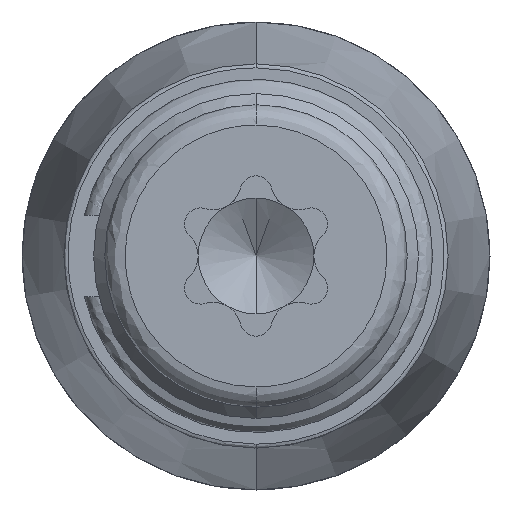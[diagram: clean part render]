
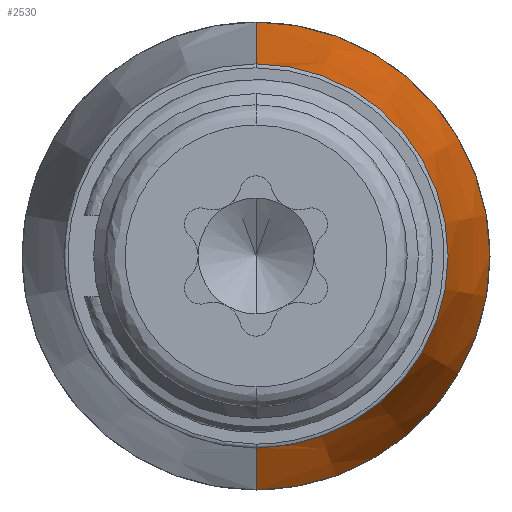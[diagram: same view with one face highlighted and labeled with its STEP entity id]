
A CAD part, front view. The second image highlights one B-rep face of the part: STEP entity #2530.
In plain terms, the highlighted conical face has half-angle 11 degrees and reference radius 5.763 mm.
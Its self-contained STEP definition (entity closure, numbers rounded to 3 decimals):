
#170 = CARTESIAN_POINT ( 'NONE',  ( 0., 12.681, -5.763 ) ) ;
#391 = ORIENTED_EDGE ( 'NONE', *, *, #571, .T. ) ;
#424 = CIRCLE ( 'NONE', #2859, 4.733 ) ;
#473 = CARTESIAN_POINT ( 'NONE',  ( 0., 12.681, 5.763 ) ) ;
#571 = EDGE_CURVE ( 'NONE', #1946, #2667, #424, .T. ) ;
#646 = CARTESIAN_POINT ( 'NONE',  ( 0., 12.681, 0. ) ) ;
#702 = CARTESIAN_POINT ( 'NONE',  ( 0., 12.681, 0. ) ) ;
#725 = DIRECTION ( 'NONE',  ( 0., -1., 0. ) ) ;
#850 = EDGE_CURVE ( 'NONE', #966, #1521, #1920, .T. ) ;
#966 = VERTEX_POINT ( 'NONE', #170 ) ;
#1036 = DIRECTION ( 'NONE',  ( 0., 0., 1. ) ) ;
#1149 = DIRECTION ( 'NONE',  ( 0., 1., 0. ) ) ;
#1203 = EDGE_LOOP ( 'NONE', ( #391, #1509, #1230, #1942 ) ) ;
#1230 = ORIENTED_EDGE ( 'NONE', *, *, #850, .T. ) ;
#1346 = LINE ( 'NONE', #2197, #3244 ) ;
#1362 = CARTESIAN_POINT ( 'NONE',  ( 0., 7.381, 0. ) ) ;
#1384 = DIRECTION ( 'NONE',  ( 0., 1., 0. ) ) ;
#1402 = DIRECTION ( 'NONE',  ( 0., 0., 1. ) ) ;
#1444 = CARTESIAN_POINT ( 'NONE',  ( 0., 7.381, -4.733 ) ) ;
#1484 = VECTOR ( 'NONE', #1865, 1000. ) ;
#1509 = ORIENTED_EDGE ( 'NONE', *, *, #2284, .T. ) ;
#1521 = VERTEX_POINT ( 'NONE', #473 ) ;
#1606 = FACE_OUTER_BOUND ( 'NONE', #1203, .T. ) ;
#1865 = DIRECTION ( 'NONE',  ( 0., 0.982, -0.191 ) ) ;
#1920 = CIRCLE ( 'NONE', #2320, 5.763 ) ;
#1931 = LINE ( 'NONE', #3055, #1484 ) ;
#1942 = ORIENTED_EDGE ( 'NONE', *, *, #3037, .F. ) ;
#1946 = VERTEX_POINT ( 'NONE', #2633 ) ;
#2197 = CARTESIAN_POINT ( 'NONE',  ( 0., 12.681, 5.763 ) ) ;
#2198 = AXIS2_PLACEMENT_3D ( 'NONE', #646, #1149, #2564 ) ;
#2284 = EDGE_CURVE ( 'NONE', #2667, #966, #1931, .T. ) ;
#2320 = AXIS2_PLACEMENT_3D ( 'NONE', #702, #725, #1036 ) ;
#2530 = ADVANCED_FACE ( 'NONE', ( #1606 ), #3211, .T. ) ;
#2564 = DIRECTION ( 'NONE',  ( 0., 0., 1. ) ) ;
#2633 = CARTESIAN_POINT ( 'NONE',  ( 0., 7.381, 4.733 ) ) ;
#2667 = VERTEX_POINT ( 'NONE', #1444 ) ;
#2859 = AXIS2_PLACEMENT_3D ( 'NONE', #1362, #1384, #1402 ) ;
#3037 = EDGE_CURVE ( 'NONE', #1946, #1521, #1346, .T. ) ;
#3055 = CARTESIAN_POINT ( 'NONE',  ( 0., 12.681, -5.763 ) ) ;
#3070 = DIRECTION ( 'NONE',  ( 0., 0.982, 0.191 ) ) ;
#3211 = CONICAL_SURFACE ( 'NONE', #2198, 5.763, 0.192 ) ;
#3244 = VECTOR ( 'NONE', #3070, 1000. ) ;
